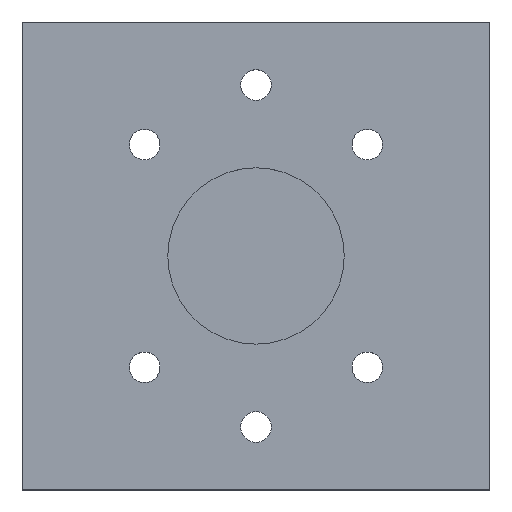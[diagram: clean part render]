
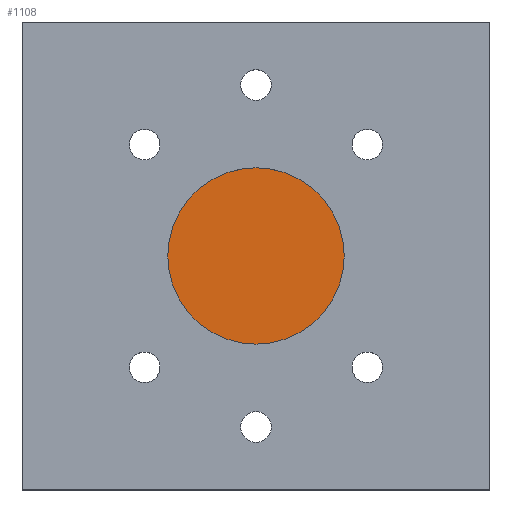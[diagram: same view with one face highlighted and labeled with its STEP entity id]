
A CAD part, top view. The second image highlights one B-rep face of the part: STEP entity #1108.
In plain terms, the highlighted planar face has unit normal (0, 0, 1).
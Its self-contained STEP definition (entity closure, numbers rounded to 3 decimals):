
#344 = CYLINDRICAL_SURFACE('',#345,9.8);
#345 = AXIS2_PLACEMENT_3D('',#346,#347,#348);
#346 = CARTESIAN_POINT('',(90.,65.,168.1));
#347 = DIRECTION('',(0.,0.,1.));
#348 = DIRECTION('',(1.,0.,-0.));
#816 = VERTEX_POINT('',#817);
#817 = CARTESIAN_POINT('',(99.8,65.,168.1));
#838 = EDGE_CURVE('',#816,#816,#839,.T.);
#839 = SURFACE_CURVE('',#840,(#845,#852),.PCURVE_S1.);
#840 = CIRCLE('',#841,9.8);
#841 = AXIS2_PLACEMENT_3D('',#842,#843,#844);
#842 = CARTESIAN_POINT('',(90.,65.,168.1));
#843 = DIRECTION('',(0.,0.,1.));
#844 = DIRECTION('',(1.,0.,-0.));
#845 = PCURVE('',#344,#846);
#846 = DEFINITIONAL_REPRESENTATION('',(#847),#851);
#847 = LINE('',#848,#849);
#848 = CARTESIAN_POINT('',(0.,0.));
#849 = VECTOR('',#850,1.);
#850 = DIRECTION('',(1.,0.));
#851 = ( GEOMETRIC_REPRESENTATION_CONTEXT(2) 
PARAMETRIC_REPRESENTATION_CONTEXT() REPRESENTATION_CONTEXT('2D SPACE',''
  ) );
#852 = PCURVE('',#853,#858);
#853 = PLANE('',#854);
#854 = AXIS2_PLACEMENT_3D('',#855,#856,#857);
#855 = CARTESIAN_POINT('',(90.,65.,168.1));
#856 = DIRECTION('',(0.,0.,1.));
#857 = DIRECTION('',(1.,0.,-0.));
#858 = DEFINITIONAL_REPRESENTATION('',(#859),#863);
#859 = CIRCLE('',#860,9.8);
#860 = AXIS2_PLACEMENT_2D('',#861,#862);
#861 = CARTESIAN_POINT('',(0.,0.));
#862 = DIRECTION('',(1.,0.));
#863 = ( GEOMETRIC_REPRESENTATION_CONTEXT(2) 
PARAMETRIC_REPRESENTATION_CONTEXT() REPRESENTATION_CONTEXT('2D SPACE',''
  ) );
#1108 = ADVANCED_FACE('',(#1109),#853,.T.);
#1109 = FACE_BOUND('',#1110,.F.);
#1110 = EDGE_LOOP('',(#1111));
#1111 = ORIENTED_EDGE('',*,*,#838,.F.);
